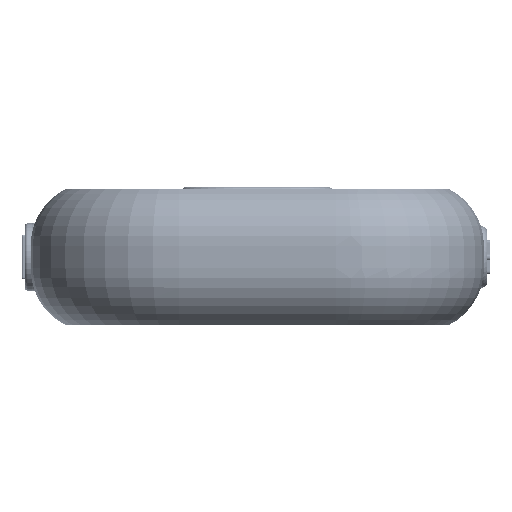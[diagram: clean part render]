
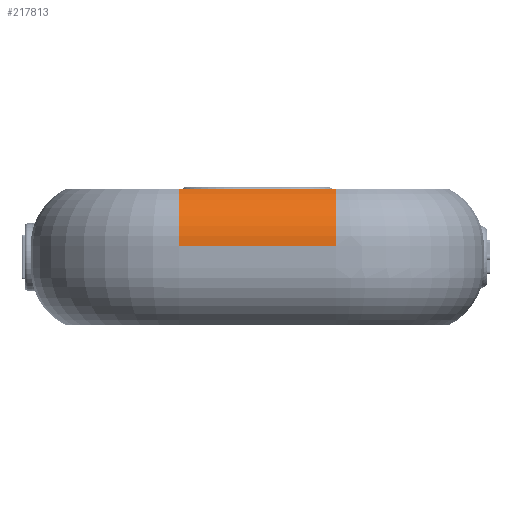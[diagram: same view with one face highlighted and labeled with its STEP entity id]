
A CAD part, front view. The second image highlights one B-rep face of the part: STEP entity #217813.
In plain terms, the highlighted cylindrical face has radius 11.35 mm (diameter 22.7 mm), a partial arc.
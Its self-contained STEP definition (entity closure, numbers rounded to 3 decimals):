
#214540 = TOROIDAL_SURFACE('',#214541,15.,11.35);
#214541 = AXIS2_PLACEMENT_3D('',#214542,#214543,#214544);
#214542 = CARTESIAN_POINT('',(-14.,-50.,-10.));
#214543 = DIRECTION('',(0.,0.,1.));
#214544 = DIRECTION('',(0.,-1.,0.));
#216813 = VERTEX_POINT('',#216814);
#216814 = CARTESIAN_POINT('',(-14.,-70.,0.189));
#216838 = VERTEX_POINT('',#216839);
#216839 = CARTESIAN_POINT('',(-14.,-76.35,-10.));
#216861 = EDGE_CURVE('',#216838,#216813,#216862,.T.);
#216862 = SURFACE_CURVE('',#216863,(#216868,#216874),.PCURVE_S1.);
#216863 = CIRCLE('',#216864,11.35);
#216864 = AXIS2_PLACEMENT_3D('',#216865,#216866,#216867);
#216865 = CARTESIAN_POINT('',(-14.,-65.,-10.));
#216866 = DIRECTION('',(-1.,0.,0.));
#216867 = DIRECTION('',(0.,-1.,0.));
#216868 = PCURVE('',#214540,#216869);
#216869 = DEFINITIONAL_REPRESENTATION('',(#216870),#216873);
#216870 = B_SPLINE_CURVE_WITH_KNOTS('',1,(#216871,#216872),
  .UNSPECIFIED.,.F.,.F.,(2,2),(0.,1.571),
  .PIECEWISE_BEZIER_KNOTS.);
#216871 = CARTESIAN_POINT('',(6.283,0.));
#216872 = CARTESIAN_POINT('',(6.283,1.571));
#216873 = ( GEOMETRIC_REPRESENTATION_CONTEXT(2) 
PARAMETRIC_REPRESENTATION_CONTEXT() REPRESENTATION_CONTEXT('2D SPACE',''
  ) );
#216874 = PCURVE('',#216875,#216880);
#216875 = CYLINDRICAL_SURFACE('',#216876,11.35);
#216876 = AXIS2_PLACEMENT_3D('',#216877,#216878,#216879);
#216877 = CARTESIAN_POINT('',(14.,-65.,-10.));
#216878 = DIRECTION('',(-1.,-0.,-0.));
#216879 = DIRECTION('',(0.,-1.,0.));
#216880 = DEFINITIONAL_REPRESENTATION('',(#216881),#216884);
#216881 = B_SPLINE_CURVE_WITH_KNOTS('',1,(#216882,#216883),
  .UNSPECIFIED.,.F.,.F.,(2,2),(0.,1.571),
  .PIECEWISE_BEZIER_KNOTS.);
#216882 = CARTESIAN_POINT('',(0.,28.));
#216883 = CARTESIAN_POINT('',(1.571,28.));
#216884 = ( GEOMETRIC_REPRESENTATION_CONTEXT(2) 
PARAMETRIC_REPRESENTATION_CONTEXT() REPRESENTATION_CONTEXT('2D SPACE',''
  ) );
#217230 = PLANE('',#217231);
#217231 = AXIS2_PLACEMENT_3D('',#217232,#217233,#217234);
#217232 = CARTESIAN_POINT('',(-14.,-76.35,-25.35));
#217233 = DIRECTION('',(0.,1.,0.));
#217234 = DIRECTION('',(1.,0.,0.));
#217799 = PLANE('',#217800);
#217800 = AXIS2_PLACEMENT_3D('',#217801,#217802,#217803);
#217801 = CARTESIAN_POINT('',(-14.,-70.,-40.));
#217802 = DIRECTION('',(0.,1.,0.));
#217803 = DIRECTION('',(1.,0.,0.));
#217813 = ADVANCED_FACE('',(#217814),#216875,.T.);
#217814 = FACE_BOUND('',#217815,.T.);
#217815 = EDGE_LOOP('',(#217816,#217839,#217866,#217886));
#217816 = ORIENTED_EDGE('',*,*,#217817,.F.);
#217817 = EDGE_CURVE('',#217818,#216838,#217820,.T.);
#217818 = VERTEX_POINT('',#217819);
#217819 = CARTESIAN_POINT('',(14.,-76.35,-10.));
#217820 = SURFACE_CURVE('',#217821,(#217825,#217832),.PCURVE_S1.);
#217821 = LINE('',#217822,#217823);
#217822 = CARTESIAN_POINT('',(14.,-76.35,-10.));
#217823 = VECTOR('',#217824,1.);
#217824 = DIRECTION('',(-1.,-0.,-0.));
#217825 = PCURVE('',#216875,#217826);
#217826 = DEFINITIONAL_REPRESENTATION('',(#217827),#217831);
#217827 = LINE('',#217828,#217829);
#217828 = CARTESIAN_POINT('',(0.,0.));
#217829 = VECTOR('',#217830,1.);
#217830 = DIRECTION('',(0.,1.));
#217831 = ( GEOMETRIC_REPRESENTATION_CONTEXT(2) 
PARAMETRIC_REPRESENTATION_CONTEXT() REPRESENTATION_CONTEXT('2D SPACE',''
  ) );
#217832 = PCURVE('',#217230,#217833);
#217833 = DEFINITIONAL_REPRESENTATION('',(#217834),#217838);
#217834 = LINE('',#217835,#217836);
#217835 = CARTESIAN_POINT('',(28.,-15.35));
#217836 = VECTOR('',#217837,1.);
#217837 = DIRECTION('',(-1.,0.));
#217838 = ( GEOMETRIC_REPRESENTATION_CONTEXT(2) 
PARAMETRIC_REPRESENTATION_CONTEXT() REPRESENTATION_CONTEXT('2D SPACE',''
  ) );
#217839 = ORIENTED_EDGE('',*,*,#217840,.T.);
#217840 = EDGE_CURVE('',#217818,#217841,#217843,.T.);
#217841 = VERTEX_POINT('',#217842);
#217842 = CARTESIAN_POINT('',(14.,-70.,0.189));
#217843 = SURFACE_CURVE('',#217844,(#217849,#217855),.PCURVE_S1.);
#217844 = CIRCLE('',#217845,11.35);
#217845 = AXIS2_PLACEMENT_3D('',#217846,#217847,#217848);
#217846 = CARTESIAN_POINT('',(14.,-65.,-10.));
#217847 = DIRECTION('',(-1.,0.,0.));
#217848 = DIRECTION('',(0.,-1.,-0.));
#217849 = PCURVE('',#216875,#217850);
#217850 = DEFINITIONAL_REPRESENTATION('',(#217851),#217854);
#217851 = B_SPLINE_CURVE_WITH_KNOTS('',1,(#217852,#217853),
  .UNSPECIFIED.,.F.,.F.,(2,2),(0.,1.571),
  .PIECEWISE_BEZIER_KNOTS.);
#217852 = CARTESIAN_POINT('',(0.,0.));
#217853 = CARTESIAN_POINT('',(1.571,0.));
#217854 = ( GEOMETRIC_REPRESENTATION_CONTEXT(2) 
PARAMETRIC_REPRESENTATION_CONTEXT() REPRESENTATION_CONTEXT('2D SPACE',''
  ) );
#217855 = PCURVE('',#217856,#217861);
#217856 = TOROIDAL_SURFACE('',#217857,15.,11.35);
#217857 = AXIS2_PLACEMENT_3D('',#217858,#217859,#217860);
#217858 = CARTESIAN_POINT('',(14.,-50.,-10.));
#217859 = DIRECTION('',(0.,0.,1.));
#217860 = DIRECTION('',(1.,0.,-0.));
#217861 = DEFINITIONAL_REPRESENTATION('',(#217862),#217865);
#217862 = B_SPLINE_CURVE_WITH_KNOTS('',1,(#217863,#217864),
  .UNSPECIFIED.,.F.,.F.,(2,2),(0.,1.571),
  .PIECEWISE_BEZIER_KNOTS.);
#217863 = CARTESIAN_POINT('',(4.712,0.));
#217864 = CARTESIAN_POINT('',(4.712,1.571));
#217865 = ( GEOMETRIC_REPRESENTATION_CONTEXT(2) 
PARAMETRIC_REPRESENTATION_CONTEXT() REPRESENTATION_CONTEXT('2D SPACE',''
  ) );
#217866 = ORIENTED_EDGE('',*,*,#217867,.T.);
#217867 = EDGE_CURVE('',#217841,#216813,#217868,.T.);
#217868 = SURFACE_CURVE('',#217869,(#217873,#217879),.PCURVE_S1.);
#217869 = LINE('',#217870,#217871);
#217870 = CARTESIAN_POINT('',(14.,-70.,0.189));
#217871 = VECTOR('',#217872,1.);
#217872 = DIRECTION('',(-1.,-0.,-0.));
#217873 = PCURVE('',#216875,#217874);
#217874 = DEFINITIONAL_REPRESENTATION('',(#217875),#217878);
#217875 = B_SPLINE_CURVE_WITH_KNOTS('',1,(#217876,#217877),
  .UNSPECIFIED.,.F.,.F.,(2,2),(0.,28.),
  .PIECEWISE_BEZIER_KNOTS.);
#217876 = CARTESIAN_POINT('',(1.115,0.));
#217877 = CARTESIAN_POINT('',(1.115,28.));
#217878 = ( GEOMETRIC_REPRESENTATION_CONTEXT(2) 
PARAMETRIC_REPRESENTATION_CONTEXT() REPRESENTATION_CONTEXT('2D SPACE',''
  ) );
#217879 = PCURVE('',#217799,#217880);
#217880 = DEFINITIONAL_REPRESENTATION('',(#217881),#217885);
#217881 = LINE('',#217882,#217883);
#217882 = CARTESIAN_POINT('',(28.,-40.189));
#217883 = VECTOR('',#217884,1.);
#217884 = DIRECTION('',(-1.,0.));
#217885 = ( GEOMETRIC_REPRESENTATION_CONTEXT(2) 
PARAMETRIC_REPRESENTATION_CONTEXT() REPRESENTATION_CONTEXT('2D SPACE',''
  ) );
#217886 = ORIENTED_EDGE('',*,*,#216861,.F.);
